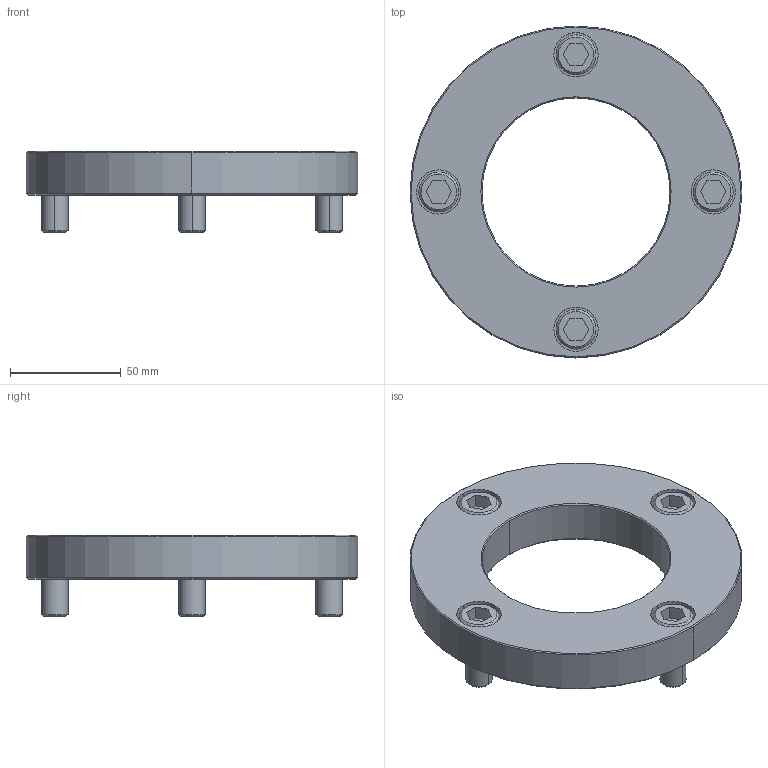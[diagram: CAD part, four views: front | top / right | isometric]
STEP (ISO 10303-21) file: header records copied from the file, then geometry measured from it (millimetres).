
FILE_DESCRIPTION((''),'2;1');
FILE_NAME('','2010-08-30T17:30:46+09:00',('misumi'),(''),'M/STEP i/f 1R2-14','CADmeister v5.1','');
FILE_SCHEMA(('AUTOMOTIVE_DESIGN'));
Length unit declared in the file: millimetre
Products named in the file (1): KEB80-20-R
Bounding box: 150 x 150 x 37 mm (x, y, z)
Volume: 240737.7 mm3; surface area: 50422.7 mm2
Topology: 5 solids, 5 shells, 106 faces, 228 edges, 144 vertices
Faces by surface type: plane 46, cylinder 36, cone 24
Entity records: 3030 total; most frequent: DIRECTION 538, CARTESIAN_POINT 479, ORIENTED_EDGE 456, EDGE_CURVE 228, AXIS2_PLACEMENT_3D 203, VERTEX_POINT 144, LINE 132, VECTOR 132
